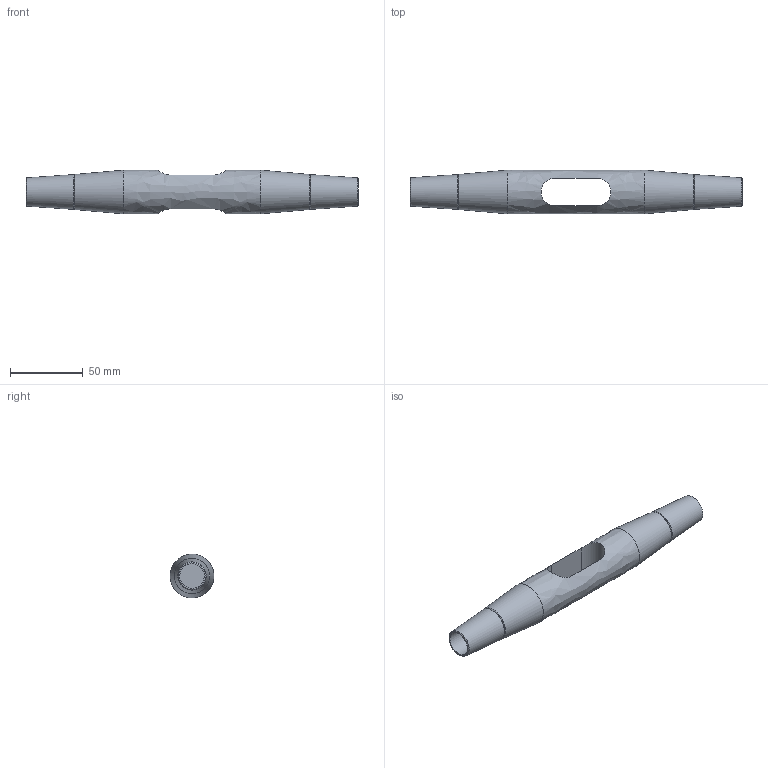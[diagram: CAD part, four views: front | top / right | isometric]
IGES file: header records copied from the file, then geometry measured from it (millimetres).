
Global section: file name: 520-016-KMF; native system: Autodesk Inventor 2016; preprocessor: unknown; author: Administrator; date: 20200702.131855; units: centimetre
Bounding box: 228 x 30 x 30 mm (x, y, z)
Volume: 95451.7 mm3; surface area: 23562.3 mm2
Topology: 1 solids, 1 shells, 21 faces, 55 edges, 38 vertices
Faces by surface type: bspline 21
